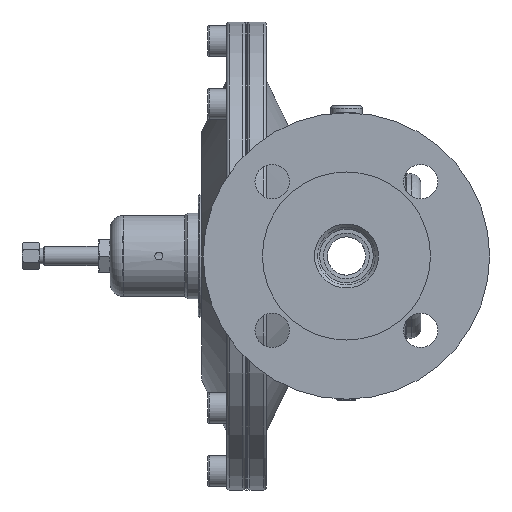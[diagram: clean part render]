
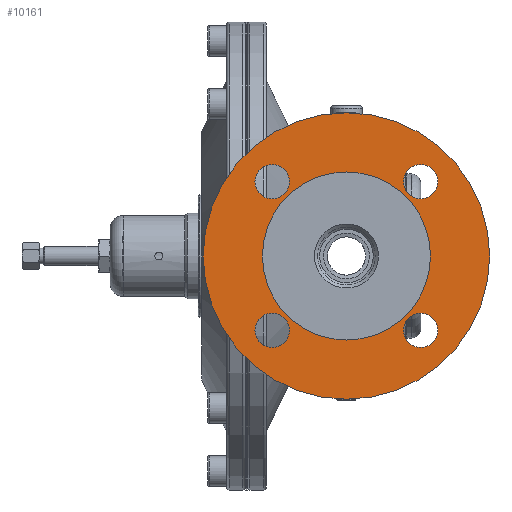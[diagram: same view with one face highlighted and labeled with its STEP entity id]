
A CAD part, left-side view. The second image highlights one B-rep face of the part: STEP entity #10161.
In plain terms, the highlighted planar face has unit normal (-1, 0, 0) as drawn and (0, 1, 0) by its records, which use the part's own axes.
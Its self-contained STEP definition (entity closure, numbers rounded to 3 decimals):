
#2170=FACE_BOUND('',#3369,.T.);
#2171=FACE_BOUND('',#3370,.T.);
#2172=FACE_BOUND('',#3371,.T.);
#2173=FACE_BOUND('',#3372,.T.);
#2174=FACE_BOUND('',#3373,.T.);
#2622=FACE_OUTER_BOUND('',#3368,.T.);
#3368=EDGE_LOOP('',(#8712));
#3369=EDGE_LOOP('',(#8713));
#3370=EDGE_LOOP('',(#8714));
#3371=EDGE_LOOP('',(#8715));
#3372=EDGE_LOOP('',(#8716));
#3373=EDGE_LOOP('',(#8717));
#4095=CIRCLE('',#11607,9.);
#4097=CIRCLE('',#11610,9.);
#4099=CIRCLE('',#11613,9.);
#4101=CIRCLE('',#11616,9.);
#4102=CIRCLE('',#11618,75.);
#4104=CIRCLE('',#11621,44.);
#4992=VERTEX_POINT('',#19766);
#4994=VERTEX_POINT('',#19772);
#4996=VERTEX_POINT('',#19778);
#4998=VERTEX_POINT('',#19784);
#4999=VERTEX_POINT('',#19788);
#5001=VERTEX_POINT('',#19794);
#6264=EDGE_CURVE('',#4992,#4992,#4095,.T.);
#6267=EDGE_CURVE('',#4994,#4994,#4097,.T.);
#6270=EDGE_CURVE('',#4996,#4996,#4099,.T.);
#6273=EDGE_CURVE('',#4998,#4998,#4101,.T.);
#6274=EDGE_CURVE('',#4999,#4999,#4102,.T.);
#6277=EDGE_CURVE('',#5001,#5001,#4104,.T.);
#8712=ORIENTED_EDGE('',*,*,#6274,.T.);
#8713=ORIENTED_EDGE('',*,*,#6264,.T.);
#8714=ORIENTED_EDGE('',*,*,#6267,.T.);
#8715=ORIENTED_EDGE('',*,*,#6270,.T.);
#8716=ORIENTED_EDGE('',*,*,#6273,.T.);
#8717=ORIENTED_EDGE('',*,*,#6277,.F.);
#9694=PLANE('',#11620);
#10161=ADVANCED_FACE('',(#2622,#2170,#2171,#2172,#2173,#2174),#9694,.T.);
#11607=AXIS2_PLACEMENT_3D('',#19768,#14259,#14260);
#11610=AXIS2_PLACEMENT_3D('',#19774,#14266,#14267);
#11613=AXIS2_PLACEMENT_3D('',#19780,#14273,#14274);
#11616=AXIS2_PLACEMENT_3D('',#19786,#14280,#14281);
#11618=AXIS2_PLACEMENT_3D('',#19789,#14284,#14285);
#11620=AXIS2_PLACEMENT_3D('',#19793,#14289,#14290);
#11621=AXIS2_PLACEMENT_3D('',#19795,#14291,#14292);
#14259=DIRECTION('center_axis',(0.,-1.,0.));
#14260=DIRECTION('ref_axis',(0.,0.,1.));
#14266=DIRECTION('center_axis',(0.,-1.,0.));
#14267=DIRECTION('ref_axis',(-1.,0.,0.));
#14273=DIRECTION('center_axis',(0.,-1.,0.));
#14274=DIRECTION('ref_axis',(0.,0.,-1.));
#14280=DIRECTION('center_axis',(0.,-1.,0.));
#14281=DIRECTION('ref_axis',(1.,0.,0.));
#14284=DIRECTION('center_axis',(0.,1.,0.));
#14285=DIRECTION('ref_axis',(-1.,0.,0.));
#14289=DIRECTION('center_axis',(0.,1.,0.));
#14290=DIRECTION('ref_axis',(0.,0.,1.));
#14291=DIRECTION('center_axis',(0.,1.,0.));
#14292=DIRECTION('ref_axis',(-1.,0.,0.));
#19766=CARTESIAN_POINT('',(38.891,15.,-47.891));
#19768=CARTESIAN_POINT('Origin',(38.891,15.,-38.891));
#19772=CARTESIAN_POINT('',(47.891,15.,38.891));
#19774=CARTESIAN_POINT('Origin',(38.891,15.,38.891));
#19778=CARTESIAN_POINT('',(-38.891,15.,47.891));
#19780=CARTESIAN_POINT('Origin',(-38.891,15.,38.891));
#19784=CARTESIAN_POINT('',(-47.891,15.,-38.891));
#19786=CARTESIAN_POINT('Origin',(-38.891,15.,-38.891));
#19788=CARTESIAN_POINT('',(75.,15.,0.));
#19789=CARTESIAN_POINT('Origin',(0.,15.,0.));
#19793=CARTESIAN_POINT('Origin',(-59.5,15.,0.));
#19794=CARTESIAN_POINT('',(44.,15.,0.));
#19795=CARTESIAN_POINT('Origin',(0.,15.,0.));
